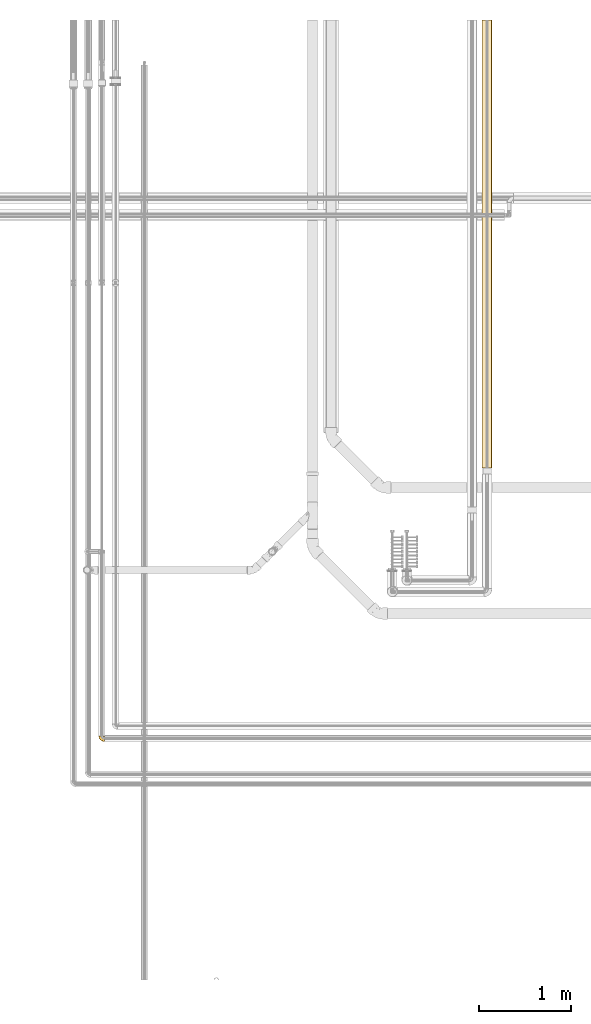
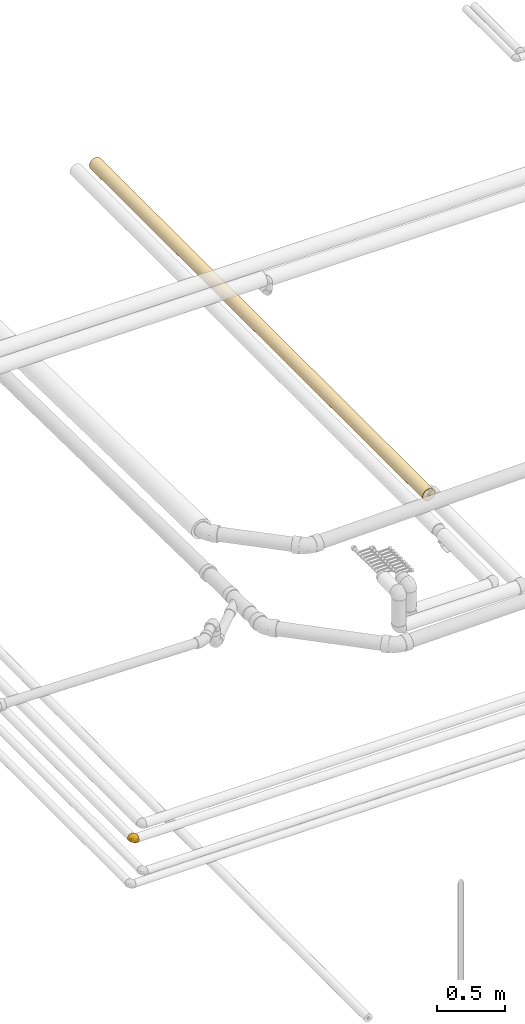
# One storey, part 15 of 83: 2 coverings.
"""IFC2X3 building model written with IfcOpenShell, lengths in millimetres."""

from ifc_helpers import new_model, entity, si_unit, converted_unit, derived_unit, direction, frame, origin_with_axes, place, context, subcontext, project, spatial, open_shell, faceted_brep, surface_model, source, transform, mapped, element, save


model = new_model("IFC2X3")

# Units and contexts
model_context = context("Model", 3, precision=0.01, world=frame((0.0, 4.29681676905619e-09, 0.0)), true_north=direction((4.01073788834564e-13, 1.0)))
plan_context = context("Plan", 3, precision=0.01, world=frame((0.0, 4.29681676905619e-09, 0.0)), true_north=direction((4.01073788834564e-13, 1.0)))
body_context = subcontext(model_context, "Body", "Model", "MODEL_VIEW")
ifc_project = project(units=[converted_unit("PLANEANGLEUNIT", "DEGREE", entity("IfcPositiveLengthMeasure", 0.0174532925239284), si_unit("PLANEANGLEUNIT", "RADIAN"), dimensions=[0, 0, 0, 0, 0, 0, 0]), si_unit("AREAUNIT", "SQUARE_METRE"), si_unit("LENGTHUNIT", "METRE", prefix="MILLI"), si_unit("MASSUNIT", "GRAM", prefix="KILO"), si_unit("POWERUNIT", "WATT"), si_unit("PRESSUREUNIT", "PASCAL"), si_unit("FORCEUNIT", "NEWTON", prefix="KILO"), si_unit("ELECTRICVOLTAGEUNIT", "VOLT"), si_unit("ELECTRICCURRENTUNIT", "AMPERE"), si_unit("THERMODYNAMICTEMPERATUREUNIT", "DEGREE_CELSIUS"), si_unit("TIMEUNIT", "SECOND"), si_unit("VOLUMEUNIT", "CUBIC_METRE"), derived_unit("LINEARVELOCITYUNIT", [(si_unit("LENGTHUNIT", "METRE"), 1), (si_unit("TIMEUNIT", "SECOND"), -1)]), derived_unit("VOLUMETRICFLOWRATEUNIT", [(si_unit("VOLUMEUNIT", "CUBIC_METRE"), 1), (si_unit("TIMEUNIT", "SECOND"), -1)]), derived_unit("THERMALTRANSMITTANCEUNIT", [(si_unit("POWERUNIT", "WATT"), 1), (si_unit("THERMODYNAMICTEMPERATUREUNIT", "KELVIN"), -1), (si_unit("AREAUNIT", "SQUARE_METRE"), -1)]), derived_unit("SOUNDPRESSUREUNIT", [(si_unit("PRESSUREUNIT", "PASCAL"), 1)])], contexts=[model_context, plan_context])

# Site, building, storey
site_placement = place(None, frame((0.0, -4.29681676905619e-09, 0.0), z_axis=(0.0, 0.0, 1.0), x_axis=(1.0, 0.0, 0.0)))
site = spatial("IfcSite", under=ifc_project, at=site_placement, Name="ENGM", CompositionType="ELEMENT")
building_placement = place(site_placement, frame((0.0, 4.29681676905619e-09, 0.0), z_axis=(0.0, 0.0, 1.0), x_axis=(1.0, 0.0, 0.0)))
building = spatial("IfcBuilding", under=site, at=building_placement, Name="TI", CompositionType="ELEMENT")
storey_placement = place(building_placement, frame((0.0, 0.0, 204000.0), z_axis=(0.0, 0.0, 1.0), x_axis=(1.0, 0.0, 0.0)))
storey = spatial("IfcBuildingStorey", under=building, at=storey_placement, Name="Nivå D", CompositionType="ELEMENT", Elevation=204000.0)

# Coverings
shared_shape = source(origin_with_axes(), body_context, "Body", "SurfaceModel", [
    surface_model("IfcShellBasedSurfaceModel", [(15.19145, 28.0, 31.53125), (21.82748, 28.0, 27.35984), (27.36817, 28.0, 21.81705), (31.53635, 28.0, 15.18087), (34.12349, 28.0, 7.78379), (7.79212, 28.0, 34.12159), (0.0, 28.0, 35.0), (-7.94633, 28.0, 34.08601), (27.35984, 28.0, -21.82748), (21.81705, 28.0, -27.36817), (15.18087, 28.0, -31.53635), (-27.7886, 28.0, -21.27895), (-15.50275, 28.0, -31.37937), (-22.2318, 28.0, -27.03234), (-7.96055, 28.0, -34.08269), (0.0, 28.0, -35.0), (7.78379, 28.0, -34.12349), (-28.0, 27.7886, -21.27895), (-28.0, 22.224, -27.03875), (-28.0, 15.49576, -31.38282), (-28.0, 27.7886, 21.27895), (-28.0, 22.224, 27.03875), (-28.0, 15.49576, 31.38282), (-28.0, 0.0, 35.0), (-28.0, 7.95617, 34.08371), (-28.0, -9.05867, -33.8074), (-28.0, -17.5, -30.31089), (-28.0, -30.31089, -17.5), (-28.0, -24.74874, -24.74874), (-27.85052, 27.85052, 21.27895), (-27.85052, 27.85052, -21.27895), (-27.7886, 28.0, 21.27895), (-3.75129, 14.0, -35.0), (-14.92657, 14.92657, -33.68284), (-21.8445, 21.41301, -29.40386), (-28.0, 0.0, -35.0), (-28.0, 7.95617, -34.08371), (-14.0, 3.75129, -35.0), (23.72212, -5.62556, -9.48024), (31.1025, 12.76605, -11.56454), (30.20441, 3.89094, 0.0), (-18.18681, -5.66753, -34.2788), (-11.29412, -3.02537, -34.24358), (-2.5838, -13.5888, -28.19295), (-6.45577, -23.43778, -21.30665), (-15.2385, -19.62657, -27.76737), (-12.15923, -10.24299, -32.33579), (-20.81202, -12.76505, -32.33578), (14.69526, 9.28731, -29.63858), (17.76561, 19.13666, -29.63858), (23.07497, 14.83644, -24.75346), (-8.87564, 8.87564, -35.0), (-1.95197, 4.75655, -34.31096), (-1.45898, 22.555, -35.0), (21.37799, -4.69325, -15.82081), (-9.67073, -31.63978, -6.49098), (-28.0, -33.8074, -9.05867), (-12.30699, -30.25922, -13.39392), (34.12159, 28.0, -7.79212), (32.51315, 15.49775, 0.0), (-18.19594, -26.89881, -21.30665), (13.02317, -12.80644, -18.25466), (17.82285, -3.4551, -21.54839), (4.64616, 8.16411, -33.48076), (10.3033, 18.12821, -33.0376), (31.53125, 28.0, -15.19145), (28.58062, 17.04239, -18.62661), (5.65651, -4.27618, -29.62872), (-1.717, -2.52072, -32.7758), (20.70088, 5.39096, -23.76693), (24.78458, 4.8651, -18.62661), (16.49047, -14.16985, -10.77522), (-1.81998, -26.11013, -13.92483), (1.45257, -26.68245, -7.84367), (7.94693, -20.85269, -12.60127), (11.62818, -20.28708, -6.08902), (16.54773, -16.54773, 0.0), (23.37607, -6.32839, 0.0), (-15.49774, -32.51315, 0.0), (3.79411, -17.38162, -21.76345), (9.58627, -9.00275, -24.75346), (-22.555, 1.45898, -35.0), (14.0428, 0.27523, -26.92532), (9.49919, 2.95493, -30.54185), (35.0, 28.0, 0.0), (-3.89094, -30.20441, 0.0), (-28.0, -35.0, 0.0), (6.32839, -23.37607, 0.0), (-28.0, -17.5, 30.31089), (-17.2311, -11.96858, 32.33578), (-28.0, -9.05867, 33.8074), (-9.68071, -31.60728, 6.66862), (10.54731, -19.25559, 11.70853), (23.73555, -5.60692, 9.4763), (-28.0, -33.8074, 9.05867), (23.08502, 14.83764, 24.74402), (28.58818, 17.0463, 18.61598), (-8.94302, -17.47502, 27.76737), (-13.94691, -25.96768, 21.30665), (1.2835, -20.12726, 20.54423), (14.70827, 9.29054, 29.6319), (17.77693, 19.13923, 29.6319), (10.313, 18.12748, 33.03425), (17.1549, -8.83947, 17.56), (-14.67787, -4.16246, 34.33062), (-14.0, 3.75129, 35.0), (-21.0, 1.87564, 35.0), (-1.45898, 22.555, 35.0), (-17.23048, -31.9313, 11.96521), (-28.0, -30.31089, 17.5), (-28.0, -24.74874, 24.74874), (-19.32662, -20.5378, 27.76737), (2.03798, -26.32265, 7.99597), (-6.13202, -28.23343, 13.39392), (31.10721, 12.77086, 11.55496), (1.36329, -9.42213, 29.01952), (-10.07203, -8.75018, 32.53996), (24.79491, 4.87203, 18.61598), (-9.08933, -0.64544, 34.42383), (-2.79969, 3.19623, 34.21754), (-3.75129, 14.0, 35.0), (-8.87564, 8.87564, 35.0), (18.56628, 3.21128, 24.74429), (4.64898, 8.15227, 33.47816), (-21.47185, -5.98166, 34.3715), (9.60711, -8.99503, 24.74402), (7.46578, -0.84917, 30.18423), (1.96406, -14.92956, 25.13866), (-3.70656, -4.31351, 32.7196), (-14.92718, 14.92718, 33.6826), (-21.40542, 21.84506, 29.4072), (-15.48877, 28.0, 31.38627), (-22.22052, 28.0, 27.0416)], [open_shell([[[0, 1, 2]], [[2, 3, 4]], [[0, 2, 5]], [[6, 5, 7]], [[8, 9, 10]], [[11, 12, 13]], [[12, 11, 14]], [[11, 15, 14]], [[15, 11, 16]], [[17, 18, 19]], [[20, 17, 21]], [[22, 23, 24]], [[23, 22, 21]], [[25, 26, 27]], [[27, 26, 28]], [[17, 20, 29]], [[30, 17, 29]], [[31, 11, 29]], [[30, 29, 11]], [[32, 33, 14]], [[19, 34, 33]], [[35, 36, 37]], [[37, 36, 33]], [[19, 18, 34]], [[18, 17, 30]], [[30, 11, 13]], [[33, 34, 12]], [[33, 32, 37]], [[12, 14, 33]], [[14, 15, 32]], [[12, 34, 13]], [[36, 19, 33]], [[30, 13, 34]], [[30, 34, 18]], [[38, 39, 40]], [[41, 37, 42]], [[43, 44, 45]], [[46, 47, 41]], [[48, 49, 50]], [[51, 52, 42]], [[53, 15, 16]], [[39, 38, 54]], [[55, 56, 57]], [[39, 58, 59]], [[60, 27, 28]], [[26, 47, 45]], [[26, 45, 28]], [[27, 60, 57]], [[47, 26, 25]], [[61, 62, 54]], [[63, 32, 64]], [[53, 16, 64]], [[8, 65, 66]], [[50, 9, 8]], [[64, 32, 53]], [[64, 16, 10]], [[49, 64, 10]], [[67, 43, 68]], [[64, 48, 63]], [[69, 70, 62]], [[69, 50, 70]], [[61, 54, 71]], [[55, 72, 73]], [[39, 65, 58]], [[40, 39, 59]], [[70, 66, 39]], [[27, 57, 56]], [[66, 50, 8]], [[74, 75, 73]], [[9, 49, 10]], [[72, 74, 73]], [[76, 38, 77]], [[56, 55, 78]], [[61, 79, 80]], [[42, 52, 68]], [[43, 45, 46]], [[60, 45, 44]], [[25, 35, 81]], [[48, 82, 83]], [[63, 68, 52]], [[58, 84, 59]], [[39, 66, 65]], [[50, 66, 70]], [[50, 49, 9]], [[64, 49, 48]], [[68, 43, 46]], [[43, 80, 79]], [[42, 46, 41]], [[82, 67, 83]], [[78, 55, 85]], [[78, 86, 56]], [[75, 76, 87]], [[87, 85, 73]], [[55, 73, 85]], [[71, 75, 74]], [[87, 73, 75]], [[72, 55, 57]], [[57, 44, 72]], [[79, 72, 44]], [[61, 71, 74]], [[71, 38, 76]], [[74, 72, 79]], [[62, 61, 80]], [[74, 79, 61]], [[43, 79, 44]], [[82, 62, 80]], [[54, 62, 70]], [[67, 82, 80]], [[69, 48, 50]], [[43, 67, 80]], [[83, 68, 63]], [[39, 54, 70]], [[54, 38, 71]], [[62, 82, 69]], [[48, 69, 82]], [[68, 83, 67]], [[63, 52, 32]], [[63, 48, 83]], [[45, 60, 28]], [[57, 60, 44]], [[41, 25, 81]], [[45, 47, 46]], [[25, 41, 47]], [[37, 41, 81]], [[51, 42, 37]], [[68, 46, 42]], [[38, 40, 77]], [[76, 75, 71]], [[32, 52, 51]], [[88, 89, 90]], [[85, 91, 78]], [[92, 76, 93]], [[91, 94, 78]], [[95, 96, 2]], [[97, 98, 99]], [[100, 101, 102]], [[103, 99, 92]], [[104, 105, 106]], [[5, 107, 102]], [[108, 98, 109]], [[5, 6, 107]], [[110, 111, 88]], [[88, 111, 89]], [[0, 5, 102]], [[112, 92, 113]], [[93, 40, 114]], [[97, 115, 116]], [[117, 96, 95]], [[1, 95, 2]], [[94, 91, 108]], [[114, 3, 96]], [[114, 59, 4]], [[1, 0, 101]], [[104, 118, 105]], [[119, 120, 121]], [[122, 117, 95]], [[100, 102, 123]], [[102, 120, 123]], [[3, 114, 4]], [[109, 98, 110]], [[101, 95, 1]], [[93, 114, 117]], [[122, 95, 100]], [[93, 103, 92]], [[3, 2, 96]], [[93, 76, 77]], [[120, 102, 107]], [[89, 104, 124]], [[125, 126, 115]], [[126, 100, 123]], [[99, 98, 113]], [[111, 98, 97]], [[121, 118, 119]], [[126, 125, 122]], [[92, 99, 113]], [[127, 125, 115]], [[112, 113, 91]], [[93, 117, 103]], [[59, 114, 40]], [[59, 84, 4]], [[90, 124, 23]], [[114, 96, 117]], [[102, 101, 0]], [[95, 101, 100]], [[119, 126, 123]], [[118, 121, 105]], [[115, 126, 128]], [[94, 86, 78]], [[87, 112, 85]], [[91, 113, 108]], [[92, 87, 76]], [[85, 112, 91]], [[87, 92, 112]], [[98, 108, 113]], [[109, 94, 108]], [[124, 104, 106]], [[116, 104, 89]], [[122, 103, 117]], [[99, 103, 125]], [[23, 124, 106]], [[89, 124, 90]], [[126, 122, 100]], [[103, 122, 125]], [[116, 115, 128]], [[127, 97, 99]], [[98, 111, 110]], [[89, 111, 97]], [[97, 116, 89]], [[118, 116, 128]], [[116, 118, 104]], [[118, 128, 119]], [[126, 119, 128]], [[120, 119, 123]], [[97, 127, 115]], [[99, 125, 127]], [[77, 40, 93]], [[24, 23, 105]], [[24, 129, 22]], [[22, 129, 130]], [[20, 21, 29]], [[120, 129, 105]], [[120, 6, 7]], [[24, 105, 129]], [[130, 29, 21]], [[130, 129, 131]], [[132, 31, 29]], [[29, 130, 132]], [[22, 130, 21]], [[7, 131, 129]], [[120, 7, 129]], [[131, 132, 130]], [[132, 11, 31]], [[8, 58, 65]], [[11, 58, 8]], [[11, 10, 16]], [[58, 4, 84]], [[90, 110, 88]], [[110, 94, 109]], [[131, 11, 132]], [[11, 8, 10]], [[7, 5, 11]], [[131, 7, 11]], [[11, 2, 58]], [[27, 56, 25]], [[23, 110, 90]], [[56, 86, 94]], [[2, 4, 58]], [[36, 17, 19]], [[17, 36, 21]], [[21, 36, 35]], [[35, 23, 21]], [[11, 5, 2]], [[35, 110, 23]], [[25, 56, 110]], [[56, 94, 110]], [[110, 35, 25]]])]),
])
covering_1_placement = place(storey_placement, frame((599881.50429, 691635.97914, 6220.0), z_axis=(0.0, 0.0, 1.0), x_axis=(0.0, -1.0, 0.0)))
element("IfcCovering", 1, at=covering_1_placement, inside=storey, Name="BI15T - Cellegummi KV 15mm", PredefinedType="INSULATION", context=body_context, shape_type="MappedRepresentation", body=[
    mapped(shared_shape, transform((0.0, 0.0, 0.0), scale=1.0)),
])
covering_2_placement = place(storey_placement, frame((604084.1909, 694586.17748, 6040.48848), z_axis=(0.0, 0.0, 1.0), x_axis=(0.0, 1.0, 0.0)))
element("IfcCovering", 2, at=covering_2_placement, inside=storey, Name="BI11T - Rørskål m/Al.folie - varme 60-25", PredefinedType="INSULATION", context=body_context, shape_type="Brep", body=[
    faceted_brep([(4889.32251999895, 12.5, 0.0), (4889.32251999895, 12.3100969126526, -2.17060222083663), (0.0, 12.3100969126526, -2.17060222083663), (0.0, 12.5, 0.0), (4889.32251999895, 11.7461577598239, -4.27525179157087), (0.0, 11.7461577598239, -4.27525179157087), (4889.32251999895, 10.8253175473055, -6.25000000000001), (0.0, 10.8253175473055, -6.25000000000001), (4889.32251999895, 9.57555553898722, -8.03484512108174), (0.0, 9.57555553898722, -8.03484512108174), (4889.32251999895, 8.03484512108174, -9.57555553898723), (0.0, 8.03484512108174, -9.57555553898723), (4889.32251999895, 6.25, -10.8253175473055), (0.0, 6.25, -10.8253175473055), (4889.32251999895, 4.27525179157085, -11.7461577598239), (0.0, 4.27525179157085, -11.7461577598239), (4889.32251999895, 2.17060222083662, -12.3100969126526), (0.0, 2.17060222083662, -12.3100969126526), (4889.32251999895, -2.29621274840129e-15, -12.5), (0.0, -2.29621274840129e-15, -12.5), (4889.32251999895, -2.17060222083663, -12.3100969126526), (0.0, -2.17060222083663, -12.3100969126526), (4889.32251999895, -4.27525179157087, -11.7461577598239), (0.0, -4.27525179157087, -11.7461577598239), (4889.32251999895, -6.25000000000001, -10.8253175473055), (0.0, -6.25000000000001, -10.8253175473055), (4889.32251999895, -8.03484512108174, -9.57555553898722), (0.0, -8.03484512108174, -9.57555553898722), (4889.32251999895, -9.57555553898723, -8.03484512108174), (0.0, -9.57555553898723, -8.03484512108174), (4889.32251999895, -10.8253175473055, -6.25), (0.0, -10.8253175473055, -6.25), (4889.32251999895, -11.7461577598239, -4.27525179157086), (0.0, -11.7461577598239, -4.27525179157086), (4889.32251999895, -12.3100969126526, -2.17060222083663), (0.0, -12.3100969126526, -2.17060222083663), (4889.32251999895, -12.5, 1.53080849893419e-15), (0.0, -12.5, 1.53080849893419e-15), (4889.32251999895, -12.3100969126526, 2.17060222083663), (0.0, -12.3100969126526, 2.17060222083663), (4889.32251999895, -11.7461577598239, 4.27525179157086), (0.0, -11.7461577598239, 4.27525179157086), (4889.32251999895, -10.8253175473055, 6.25), (0.0, -10.8253175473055, 6.25), (4889.32251999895, -9.57555553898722, 8.03484512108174), (0.0, -9.57555553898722, 8.03484512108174), (4889.32251999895, -8.03484512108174, 9.57555553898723), (0.0, -8.03484512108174, 9.57555553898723), (4889.32251999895, -6.25, 10.8253175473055), (0.0, -6.25, 10.8253175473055), (4889.32251999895, -4.27525179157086, 11.7461577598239), (0.0, -4.27525179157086, 11.7461577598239), (4889.32251999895, -2.17060222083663, 12.3100969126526), (0.0, -2.17060222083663, 12.3100969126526), (4889.32251999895, 7.65404249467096e-16, 12.5), (0.0, 7.65404249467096e-16, 12.5), (4889.32251999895, 2.17060222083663, 12.3100969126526), (0.0, 2.17060222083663, 12.3100969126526), (4889.32251999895, 4.27525179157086, 11.7461577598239), (0.0, 4.27525179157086, 11.7461577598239), (4889.32251999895, 6.25, 10.8253175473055), (0.0, 6.25, 10.8253175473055), (4889.32251999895, 8.03484512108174, 9.57555553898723), (0.0, 8.03484512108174, 9.57555553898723), (4889.32251999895, 9.57555553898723, 8.03484512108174), (0.0, 9.57555553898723, 8.03484512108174), (4889.32251999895, 10.8253175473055, 6.25), (0.0, 10.8253175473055, 6.25), (4889.32251999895, 11.7461577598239, 4.27525179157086), (0.0, 11.7461577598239, 4.27525179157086), (4889.32251999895, 12.3100969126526, 2.17060222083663), (0.0, 12.3100969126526, 2.17060222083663), (4889.32251999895, 51.7024070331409, -9.11652932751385), (4889.32251999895, 52.5, 0.0), (0.0, 52.5, 0.0), (0.0, 51.7024070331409, -9.11652932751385), (4889.32251999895, 51.7024070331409, 9.11652932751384), (0.0, 51.7024070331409, 9.11652932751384), (4889.32251999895, 49.3338625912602, 17.9560575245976), (0.0, 49.3338625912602, 17.9560575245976), (4889.32251999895, 45.466333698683, 26.25), (0.0, 45.466333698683, 26.25), (4889.32251999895, 40.2173332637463, 33.7463495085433), (0.0, 40.2173332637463, 33.7463495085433), (4889.32251999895, 33.7463495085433, 40.2173332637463), (0.0, 33.7463495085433, 40.2173332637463), (4889.32251999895, 26.25, 45.466333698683), (0.0, 26.25, 45.466333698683), (4889.32251999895, 17.9560575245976, 49.3338625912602), (0.0, 17.9560575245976, 49.3338625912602), (4889.32251999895, 9.11652932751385, 51.7024070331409), (0.0, 9.11652932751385, 51.7024070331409), (4889.32251999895, 3.2146978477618e-15, 52.5), (0.0, 3.2146978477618e-15, 52.5), (4889.32251999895, -9.11652932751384, 51.7024070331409), (0.0, -9.11652932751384, 51.7024070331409), (4889.32251999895, -17.9560575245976, 49.3338625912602), (0.0, -17.9560575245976, 49.3338625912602), (4889.32251999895, -26.25, 45.466333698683), (0.0, -26.25, 45.466333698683), (4889.32251999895, -33.7463495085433, 40.2173332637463), (0.0, -33.7463495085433, 40.2173332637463), (4889.32251999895, -40.2173332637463, 33.7463495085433), (0.0, -40.2173332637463, 33.7463495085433), (4889.32251999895, -45.466333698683, 26.25), (0.0, -45.466333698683, 26.25), (4889.32251999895, -49.3338625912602, 17.9560575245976), (0.0, -49.3338625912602, 17.9560575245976), (4889.32251999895, -51.7024070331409, 9.11652932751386), (0.0, -51.7024070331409, 9.11652932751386), (4889.32251999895, -52.5, 6.4293956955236e-15), (0.0, -52.5, 6.4293956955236e-15), (4889.32251999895, -51.7024070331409, -9.11652932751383), (0.0, -51.7024070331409, -9.11652932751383), (4889.32251999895, -49.3338625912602, -17.9560575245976), (0.0, -49.3338625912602, -17.9560575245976), (4889.32251999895, -45.466333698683, -26.25), (0.0, -45.466333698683, -26.25), (4889.32251999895, -40.2173332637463, -33.7463495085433), (0.0, -40.2173332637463, -33.7463495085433), (4889.32251999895, -33.7463495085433, -40.2173332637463), (0.0, -33.7463495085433, -40.2173332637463), (4889.32251999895, -26.25, -45.466333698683), (0.0, -26.25, -45.466333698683), (4889.32251999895, -17.9560575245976, -49.3338625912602), (0.0, -17.9560575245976, -49.3338625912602), (4889.32251999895, -9.11652932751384, -51.7024070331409), (0.0, -9.11652932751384, -51.7024070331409), (4889.32251999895, -9.64409354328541e-15, -52.5), (0.0, -9.64409354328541e-15, -52.5), (4889.32251999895, 9.11652932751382, -51.7024070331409), (0.0, 9.11652932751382, -51.7024070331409), (4889.32251999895, 17.9560575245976, -49.3338625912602), (0.0, 17.9560575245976, -49.3338625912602), (4889.32251999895, 26.25, -45.466333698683), (0.0, 26.25, -45.466333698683), (4889.32251999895, 33.7463495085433, -40.2173332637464), (0.0, 33.7463495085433, -40.2173332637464), (4889.32251999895, 40.2173332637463, -33.7463495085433), (0.0, 40.2173332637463, -33.7463495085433), (4889.32251999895, 45.466333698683, -26.25), (0.0, 45.466333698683, -26.25), (4889.32251999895, 49.3338625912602, -17.9560575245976), (0.0, 49.3338625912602, -17.9560575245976)], [[[0, 1, 2, 3]], [[1, 4, 5, 2]], [[4, 6, 7, 5]], [[6, 8, 9, 7]], [[8, 10, 11, 9]], [[10, 12, 13, 11]], [[12, 14, 15, 13]], [[14, 16, 17, 15]], [[16, 18, 19, 17]], [[18, 20, 21, 19]], [[20, 22, 23, 21]], [[22, 24, 25, 23]], [[24, 26, 27, 25]], [[26, 28, 29, 27]], [[28, 30, 31, 29]], [[30, 32, 33, 31]], [[32, 34, 35, 33]], [[34, 36, 37, 35]], [[36, 38, 39, 37]], [[38, 40, 41, 39]], [[40, 42, 43, 41]], [[42, 44, 45, 43]], [[44, 46, 47, 45]], [[46, 48, 49, 47]], [[48, 50, 51, 49]], [[50, 52, 53, 51]], [[52, 54, 55, 53]], [[54, 56, 57, 55]], [[56, 58, 59, 57]], [[58, 60, 61, 59]], [[60, 62, 63, 61]], [[62, 64, 65, 63]], [[64, 66, 67, 65]], [[66, 68, 69, 67]], [[68, 70, 71, 69]], [[70, 0, 3, 71]], [[72, 73, 74, 75]], [[73, 76, 77, 74]], [[76, 78, 79, 77]], [[78, 80, 81, 79]], [[80, 82, 83, 81]], [[82, 84, 85, 83]], [[84, 86, 87, 85]], [[86, 88, 89, 87]], [[88, 90, 91, 89]], [[90, 92, 93, 91]], [[92, 94, 95, 93]], [[94, 96, 97, 95]], [[96, 98, 99, 97]], [[98, 100, 101, 99]], [[100, 102, 103, 101]], [[102, 104, 105, 103]], [[104, 106, 107, 105]], [[106, 108, 109, 107]], [[108, 110, 111, 109]], [[110, 112, 113, 111]], [[112, 114, 115, 113]], [[114, 116, 117, 115]], [[116, 118, 119, 117]], [[118, 120, 121, 119]], [[120, 122, 123, 121]], [[122, 124, 125, 123]], [[124, 126, 127, 125]], [[126, 128, 129, 127]], [[128, 130, 131, 129]], [[130, 132, 133, 131]], [[132, 134, 135, 133]], [[134, 136, 137, 135]], [[136, 138, 139, 137]], [[138, 140, 141, 139]], [[140, 142, 143, 141]], [[142, 72, 75, 143]], [[75, 74, 77, 79, 81, 83, 85, 87, 89, 91, 93, 95, 97, 99, 101, 103, 105, 107, 109, 111, 113, 115, 117, 119, 121, 123, 125, 127, 129, 131, 133, 135, 137, 139, 141, 143], [3, 2, 5, 7, 9, 11, 13, 15, 17, 19, 21, 23, 25, 27, 29, 31, 33, 35, 37, 39, 41, 43, 45, 47, 49, 51, 53, 55, 57, 59, 61, 63, 65, 67, 69, 71]], [[142, 140, 138, 136, 134, 132, 130, 128, 126, 124, 122, 120, 118, 116, 114, 112, 110, 108, 106, 104, 102, 100, 98, 96, 94, 92, 90, 88, 86, 84, 82, 80, 78, 76, 73, 72], [70, 68, 66, 64, 62, 60, 58, 56, 54, 52, 50, 48, 46, 44, 42, 40, 38, 36, 34, 32, 30, 28, 26, 24, 22, 20, 18, 16, 14, 12, 10, 8, 6, 4, 1, 0]]], orient=[[False], [False], [False], [False], [False], [False], [False], [False], [False], [False], [False], [False], [False], [False], [False], [False], [False], [False], [False], [False], [False], [False], [False], [False], [False], [False], [False], [False], [False], [False], [False], [False], [False], [False], [False], [False], [False], [False], [False], [False], [False], [False], [False], [False], [False], [False], [False], [False], [False], [False], [False], [False], [False], [False], [False], [False], [False], [False], [False], [False], [False], [False], [False], [False], [False], [False], [False], [False], [False], [False], [False], [False], [False, False], [False, False]]),
])

save(model, "model.ifc")
